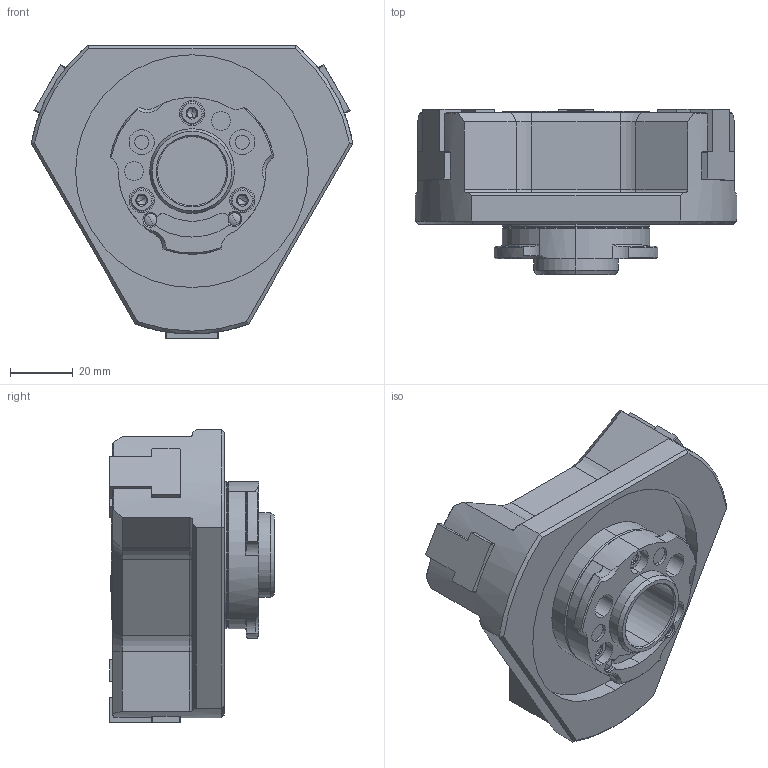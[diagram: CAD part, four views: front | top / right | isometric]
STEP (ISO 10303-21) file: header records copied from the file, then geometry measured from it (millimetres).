
FILE_DESCRIPTION (( 'STEP AP214' ), '1' );
FILE_NAME ('HP-QGL30610-Assy-61G856542-20241125-UC.STEP', '2024-11-25T02:48:58', ( '' ), ( '' ), 'SwSTEP 2.0', 'SolidWorks 2022', '' );
FILE_SCHEMA (( 'AUTOMOTIVE_DESIGN' ));
Length unit declared in the file: millimetre
Products named in the file (8): BOLT^HP-QGL30610; BODY^HP-QGL30610; MASTER JAW^HP-QGL30610; KNOCK PIN^HP-QGL30610; RING^HP-QGL30610; COVER^HP-QGL30610; HP-QGL30610-Assy-61G856542-20241125-UC; S-SARA^HP-QGL30610
Assembly tree (14 placements, depth 2):
  HP-QGL30610-Assy-61G856542-20241125-UC
    BODY^HP-QGL30610
    MASTER JAW^HP-QGL30610  x3
    RING^HP-QGL30610
    COVER^HP-QGL30610
    BOLT^HP-QGL30610  x3
    S-SARA^HP-QGL30610  x3
    KNOCK PIN^HP-QGL30610  x2
Bounding box: 102.51 x 52.6 x 93.3 mm (x, y, z)
Volume: 165965 mm3; surface area: 56626.1 mm2
Topology: 14 solids, 14 shells, 1627 faces, 4477 edges, 2925 vertices
Faces by surface type: plane 1143, cylinder 189, bspline 153, cone 123, torus 15, sphere 4
Entity records: 53083 total; most frequent: CARTESIAN_POINT 16698, ORIENTED_EDGE 8002, DIRECTION 6543, EDGE_CURVE 4001, LINE 3209, VECTOR 3209, VERTEX_POINT 2638, AXIS2_PLACEMENT_3D 1667
